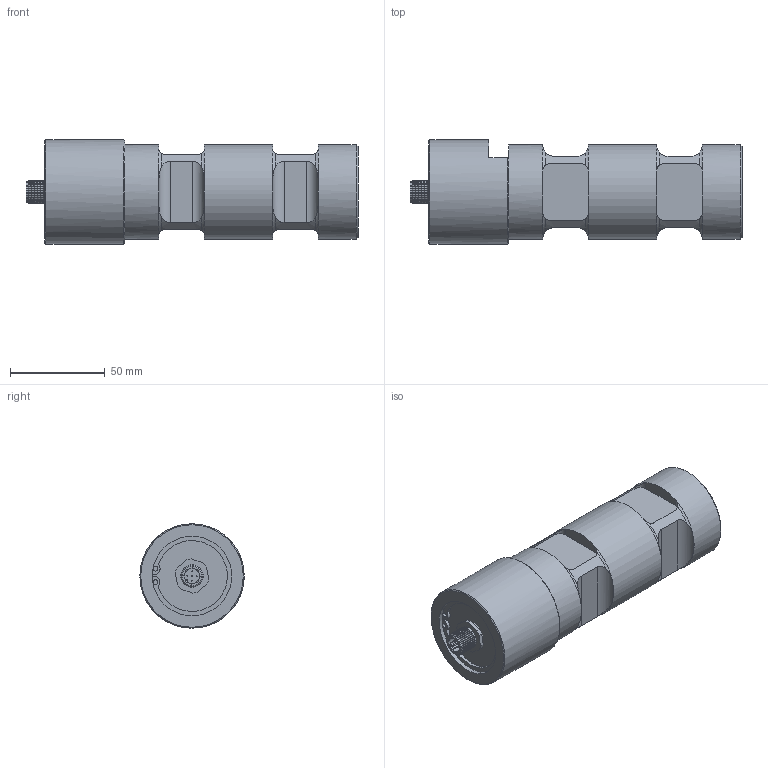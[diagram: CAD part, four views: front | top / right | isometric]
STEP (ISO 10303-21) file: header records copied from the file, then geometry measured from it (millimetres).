
FILE_DESCRIPTION(/* description */ ('Alibre Inc.'),/* implementation_level */ '2;1');
FILE_NAME(/* name */ 'export-00827992-0ACA-444B-8BA1-0F7BEFAF3162',/* time_stamp */ '2020-05-29T09:40:35+02:00',/* author */ (''),/* organization */ (''),/* preprocessor_version */ 'ST-DEVELOPER v17',/* originating_system */ 'Alibre',/* authorisation */ '');
FILE_SCHEMA (('CONFIG_CONTROL_DESIGN'));
Length unit declared in the file: centimetre
Products named in the file (5): DIN 472 - d1 42 - s 1,75
Bounding box: 175 x 55 x 55 mm (x, y, z)
Volume: 437735.3 mm3; surface area: 191391.8 mm2
Topology: 9 solids, 10 shells, 278 faces, 623 edges, 372 vertices
Faces by surface type: cylinder 106, plane 82, cone 72, torus 18
Full cylindrical faces by diameter (mm): 0.5 x10, 8 x2, 10 x1, 11 x1, 11.5 x1, 12 x21, 13 x2, 14.5 x1, 41.5 x1, 42 x2, 44.5 x1, 50 x3, 55 x1
Entity records: 7299 total; most frequent: CARTESIAN_POINT 1813, ORIENTED_EDGE 1024, DIRECTION 867, EDGE_CURVE 506, EDGE_LOOP 402, FACE_BOUND 402, AXIS2_PLACEMENT_3D 401, VERTEX_POINT 354
